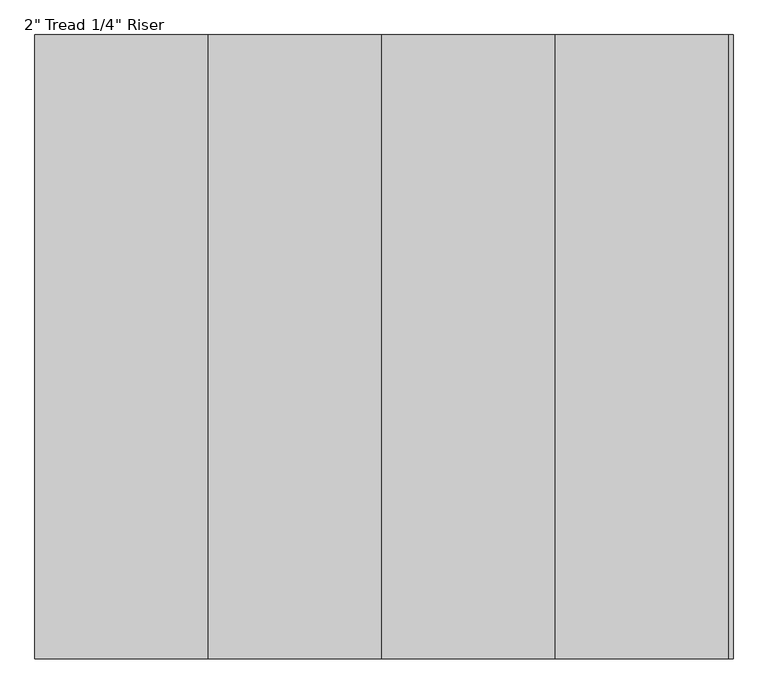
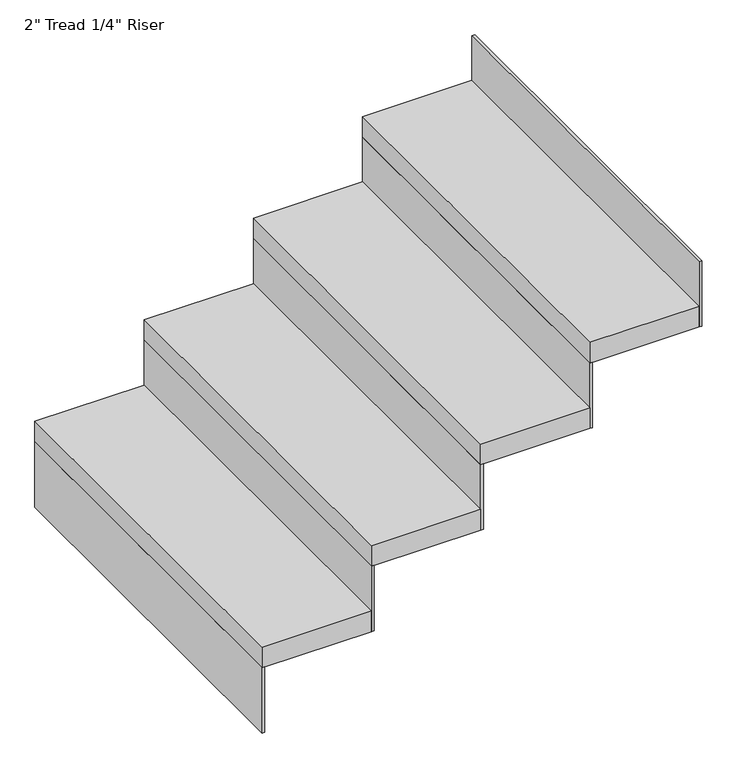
"""IFC4 building model written with IfcOpenShell, lengths in millimetres: stair flight geometry."""

from ifc_helpers import new_model, si_unit, frame, origin, place, context, project, spatial, polyline, outline, extrude, source, transform, mapped, element, save


def stair_flight_3dfb1ecf(model_context):
    return source(origin(), model_context, "Body", "SweptSolid", [
        extrude(outline(polyline([(164379.0622654, -35524.5173894), (164372.7122654, -35524.5173894), (164372.7122654, -34610.1173894), (164379.0622654, -34610.1173894), (164379.0622654, -35524.5173894)])), frame((0.0, 0.0, 2195.0947368), z_axis=(0.0, 0.0, 1.0), x_axis=(1.0, 0.0, 0.0)), (0.0, 0.0, 1.0), 160.4210526),
        extrude(outline(polyline([(164626.7122654, -34610.1173894), (164626.7122654, -35524.5173894), (164372.7122654, -35524.5173894), (164372.7122654, -34610.1173894), (164626.7122654, -34610.1173894)])), frame((0.0, 0.0, 2355.5157895), z_axis=(0.0, 0.0, 1.0), x_axis=(1.0, 0.0, 0.0)), (0.0, 0.0, 1.0), 50.8),
        extrude(outline(polyline([(164633.0622654, -35524.5173894), (164626.7122654, -35524.5173894), (164626.7122654, -34610.1173894), (164633.0622654, -34610.1173894), (164633.0622654, -35524.5173894)])), frame((0.0, 0.0, 2355.5157895), z_axis=(0.0, 0.0, 1.0), x_axis=(1.0, 0.0, 0.0)), (0.0, 0.0, 1.0), 160.4210526),
        extrude(outline(polyline([(164880.7122654, -34610.1173894), (164880.7122654, -35524.5173894), (164626.7122654, -35524.5173894), (164626.7122654, -34610.1173894), (164880.7122654, -34610.1173894)])), frame((0.0, 0.0, 2515.9368421), z_axis=(0.0, 0.0, 1.0), x_axis=(1.0, 0.0, 0.0)), (0.0, 0.0, 1.0), 50.8),
        extrude(outline(polyline([(164887.0622654, -35524.5173894), (164880.7122654, -35524.5173894), (164880.7122654, -34610.1173894), (164887.0622654, -34610.1173894), (164887.0622654, -35524.5173894)])), frame((0.0, 0.0, 2515.9368421), z_axis=(0.0, 0.0, 1.0), x_axis=(1.0, 0.0, 0.0)), (0.0, 0.0, 1.0), 160.4210526),
        extrude(outline(polyline([(165134.7122654, -34610.1173894), (165134.7122654, -35524.5173894), (164880.7122654, -35524.5173894), (164880.7122654, -34610.1173894), (165134.7122654, -34610.1173894)])), frame((0.0, 0.0, 2676.3578947), z_axis=(0.0, 0.0, 1.0), x_axis=(1.0, 0.0, 0.0)), (0.0, 0.0, 1.0), 50.8),
        extrude(outline(polyline([(165141.0622654, -35524.5173894), (165134.7122654, -35524.5173894), (165134.7122654, -34610.1173894), (165141.0622654, -34610.1173894), (165141.0622654, -35524.5173894)])), frame((0.0, 0.0, 2676.3578947), z_axis=(0.0, 0.0, 1.0), x_axis=(1.0, 0.0, 0.0)), (0.0, 0.0, 1.0), 160.4210526),
        extrude(outline(polyline([(165395.0622654, -35524.5173894), (165388.7122654, -35524.5173894), (165388.7122654, -34610.1173894), (165395.0622654, -34610.1173894), (165395.0622654, -35524.5173894)])), frame((0.0, 0.0, 2836.7789474), z_axis=(0.0, 0.0, 1.0), x_axis=(1.0, 0.0, 0.0)), (0.0, 0.0, 1.0), 160.4210526),
        extrude(outline(polyline([(165388.7122654, -34610.1173894), (165388.7122654, -35524.5173894), (165134.7122654, -35524.5173894), (165134.7122654, -34610.1173894), (165388.7122654, -34610.1173894)])), frame((0.0, 0.0, 2836.7789474), z_axis=(0.0, 0.0, 1.0), x_axis=(1.0, 0.0, 0.0)), (0.0, 0.0, 1.0), 50.8),
    ])


if __name__ == "__main__":
    model = new_model("IFC4")
    model_context = context("Model", 3, world=origin())
    ifc_project = project(units=[si_unit("LENGTHUNIT", "METRE", prefix="MILLI")], contexts=[model_context])
    site = spatial("IfcSite", under=ifc_project)
    building = spatial("IfcBuilding", under=site)
    placement = place(None, origin())
    stair_flight_shape = stair_flight_3dfb1ecf(model_context)
    element("IfcStairFlight", 1, ObjectType="2\" Tread 1/4\" Riser", at=placement, inside=building, context=model_context, shape_type="MappedRepresentation", body=[
        mapped(stair_flight_shape, transform((0.0, 0.0, 0.0), x_axis=(1.0, 0.0, 0.0), y_axis=(0.0, 1.0, 0.0), z_axis=(0.0, 0.0, 1.0))),
    ])
    save(model, "model.ifc")
